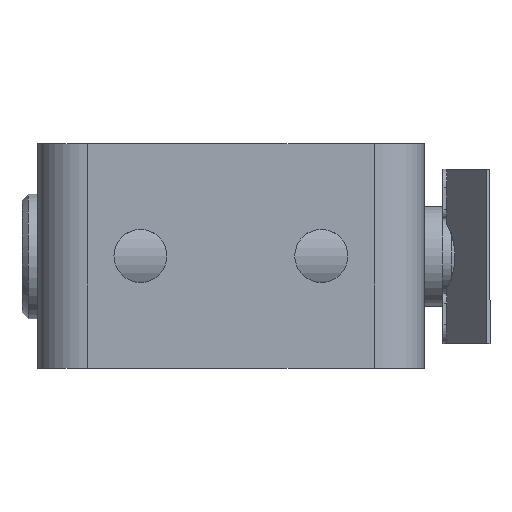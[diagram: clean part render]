
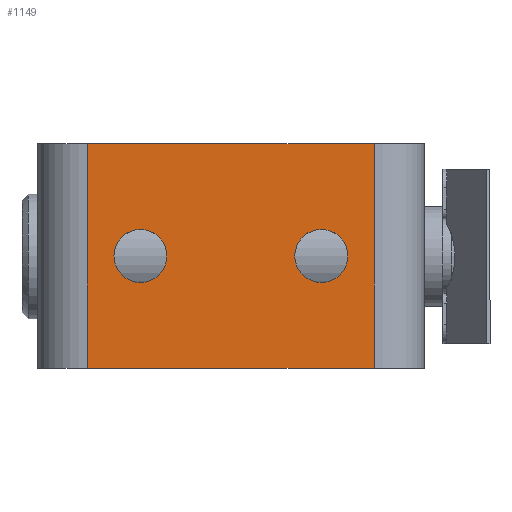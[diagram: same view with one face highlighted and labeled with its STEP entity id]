
A CAD part, top view. The second image highlights one B-rep face of the part: STEP entity #1149.
In plain terms, the highlighted planar face has unit normal (0, 0, 1).
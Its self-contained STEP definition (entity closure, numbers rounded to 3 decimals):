
#39=FACE_BOUND('',#165,.T.);
#40=FACE_BOUND('',#166,.T.);
#60=PLANE('',#1222);
#97=FACE_OUTER_BOUND('',#164,.T.);
#164=EDGE_LOOP('',(#795,#796,#797,#798));
#165=EDGE_LOOP('',(#799));
#166=EDGE_LOOP('',(#800));
#252=LINE('',#1741,#352);
#253=LINE('',#1744,#353);
#254=LINE('',#1746,#354);
#255=LINE('',#1747,#355);
#352=VECTOR('',#1365,36.);
#353=VECTOR('',#1368,46.);
#354=VECTOR('',#1369,36.);
#355=VECTOR('',#1370,46.);
#453=CIRCLE('',#1223,4.25);
#454=CIRCLE('',#1224,4.25);
#513=VERTEX_POINT('',#1734);
#516=VERTEX_POINT('',#1739);
#517=VERTEX_POINT('',#1743);
#518=VERTEX_POINT('',#1745);
#519=VERTEX_POINT('',#1748);
#520=VERTEX_POINT('',#1750);
#630=EDGE_CURVE('',#516,#513,#252,.T.);
#631=EDGE_CURVE('',#517,#516,#253,.T.);
#632=EDGE_CURVE('',#518,#517,#254,.T.);
#633=EDGE_CURVE('',#513,#518,#255,.T.);
#634=EDGE_CURVE('',#519,#519,#453,.T.);
#635=EDGE_CURVE('',#520,#520,#454,.T.);
#795=ORIENTED_EDGE('',*,*,#630,.F.);
#796=ORIENTED_EDGE('',*,*,#631,.F.);
#797=ORIENTED_EDGE('',*,*,#632,.F.);
#798=ORIENTED_EDGE('',*,*,#633,.F.);
#799=ORIENTED_EDGE('',*,*,#634,.T.);
#800=ORIENTED_EDGE('',*,*,#635,.T.);
#1149=ADVANCED_FACE('',(#97,#39,#40),#60,.T.);
#1222=AXIS2_PLACEMENT_3D('',#1742,#1366,#1367);
#1223=AXIS2_PLACEMENT_3D('',#1749,#1371,#1372);
#1224=AXIS2_PLACEMENT_3D('',#1751,#1373,#1374);
#1365=DIRECTION('',(0.,1.,0.));
#1366=DIRECTION('center_axis',(0.,0.,1.));
#1367=DIRECTION('ref_axis',(0.,-1.,0.));
#1368=DIRECTION('',(-1.,0.,0.));
#1369=DIRECTION('',(0.,-1.,0.));
#1370=DIRECTION('',(1.,0.,0.));
#1371=DIRECTION('center_axis',(0.,0.,-1.));
#1372=DIRECTION('ref_axis',(-1.,0.,0.));
#1373=DIRECTION('center_axis',(0.,0.,-1.));
#1374=DIRECTION('ref_axis',(-1.,0.,0.));
#1734=CARTESIAN_POINT('',(-23.,18.,47.));
#1739=CARTESIAN_POINT('',(-23.,-18.,47.));
#1741=CARTESIAN_POINT('',(-23.,9.,47.));
#1742=CARTESIAN_POINT('Origin',(0.,18.,47.));
#1743=CARTESIAN_POINT('',(23.,-18.,47.));
#1744=CARTESIAN_POINT('',(0.,-18.,47.));
#1745=CARTESIAN_POINT('',(23.,18.,47.));
#1746=CARTESIAN_POINT('',(23.,9.,47.));
#1747=CARTESIAN_POINT('',(0.,18.,47.));
#1748=CARTESIAN_POINT('',(18.75,0.,47.));
#1749=CARTESIAN_POINT('Origin',(14.5,0.,47.));
#1750=CARTESIAN_POINT('',(-10.25,0.,47.));
#1751=CARTESIAN_POINT('Origin',(-14.5,0.,47.));
